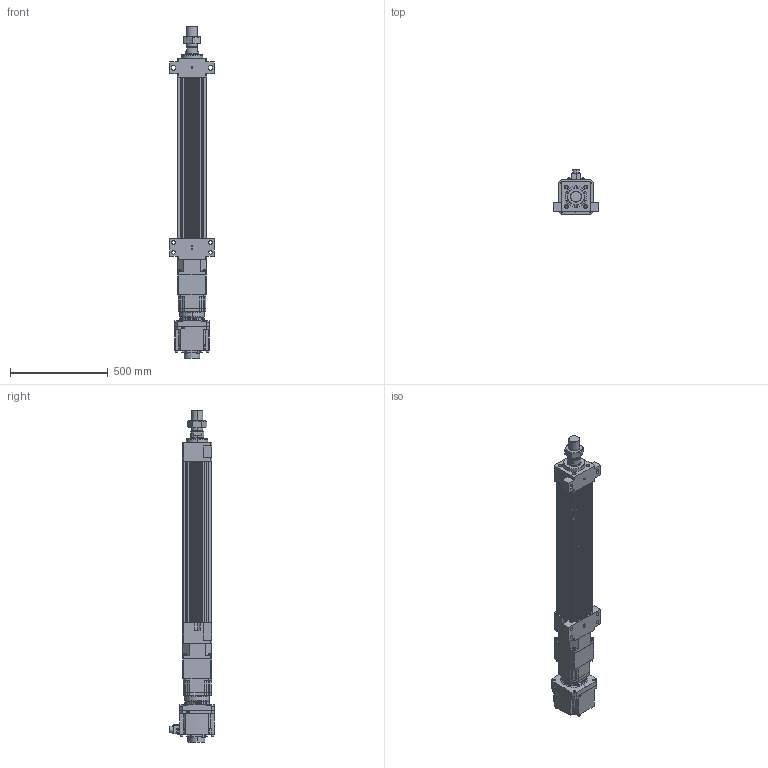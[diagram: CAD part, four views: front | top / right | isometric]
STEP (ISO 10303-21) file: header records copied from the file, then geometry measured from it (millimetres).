
FILE_DESCRIPTION (( 'STEP AP203' ), '1' );
FILE_NAME ('HES150NS(HS)-S550-W035G00-M-FFB.STEP', '2023-02-01T03:15:34', ( 'tms' ), ( '' ), 'SwSTEP 2.0', 'SolidWorks 2013', '' );
FILE_SCHEMA (( 'CONFIG_CONTROL_DESIGN' ));
Length unit declared in the file: millimetre
Products named in the file (9): HES150NS(HS)-S550-W035G00-M-FFB; AB142-003[HG-SR352]; P0403500801; AB1421; HES150 ROD M ST550; HG-SR352; P1301500001; M56X2.0P; HES150-S550-G142-FFB
Assembly tree (8 placements, depth 3):
  HES150NS(HS)-S550-W035G00-M-FFB
    HES150-S550-G142-FFB
    HES150 ROD M ST550
    M56X2.0P
    AB142-003[HG-SR352]
      AB1421
      P1301500001
      P0403500801
    HG-SR352
Bounding box: 230 x 228.85 x 1697.5 mm (x, y, z)
Volume: 19232238.1 mm3; surface area: 2122386.5 mm2
Topology: 5 solids, 23 shells, 1522 faces, 3951 edges, 2569 vertices
Faces by surface type: cylinder 691, plane 599, cone 150, bspline 76, torus 6
Entity records: 55583 total; most frequent: CARTESIAN_POINT 16843, DIRECTION 8091, ORIENTED_EDGE 7808, EDGE_CURVE 3926, AXIS2_PLACEMENT_3D 3042, VERTEX_POINT 2569, VECTOR 2007, LINE 2007
